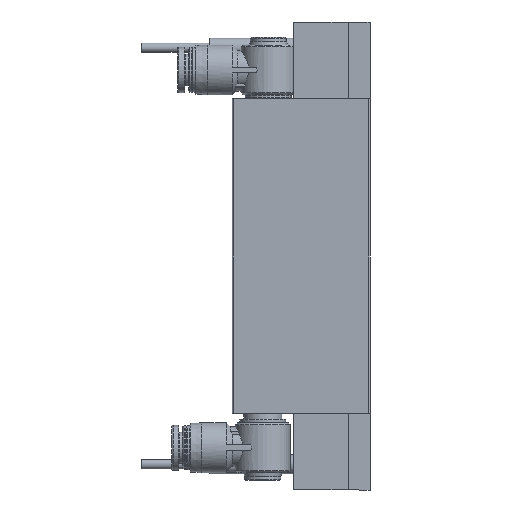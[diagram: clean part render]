
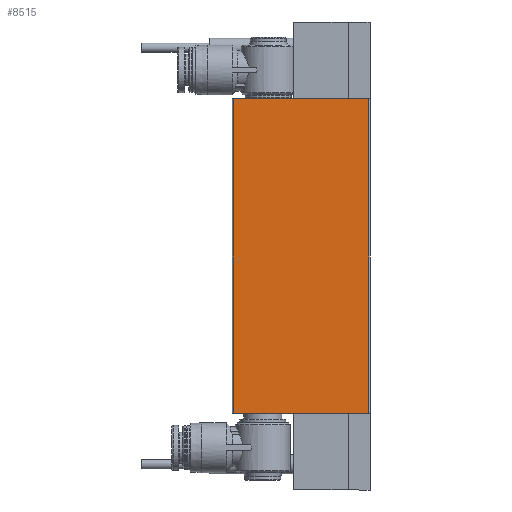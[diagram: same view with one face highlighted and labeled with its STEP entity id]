
A CAD part, left-side view. The second image highlights one B-rep face of the part: STEP entity #8515.
In plain terms, the highlighted planar face has unit normal (-1, 0, 0).
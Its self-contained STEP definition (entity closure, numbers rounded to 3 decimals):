
#778=PLANE('',#9761);
#1323=FACE_OUTER_BOUND('',#1870,.T.);
#1870=EDGE_LOOP('',(#7768,#7769,#7770,#7771));
#2970=LINE('',#15240,#3617);
#2971=LINE('',#15243,#3618);
#2972=LINE('',#15245,#3619);
#2973=LINE('',#15246,#3620);
#3617=VECTOR('',#12215,10.);
#3618=VECTOR('',#12218,10.);
#3619=VECTOR('',#12219,10.);
#3620=VECTOR('',#12220,10.);
#4440=VERTEX_POINT('',#15236);
#4441=VERTEX_POINT('',#15238);
#4442=VERTEX_POINT('',#15242);
#4443=VERTEX_POINT('',#15244);
#5568=EDGE_CURVE('',#4440,#4441,#2970,.T.);
#5569=EDGE_CURVE('',#4440,#4442,#2971,.T.);
#5570=EDGE_CURVE('',#4443,#4441,#2972,.T.);
#5571=EDGE_CURVE('',#4442,#4443,#2973,.T.);
#7768=ORIENTED_EDGE('',*,*,#5569,.F.);
#7769=ORIENTED_EDGE('',*,*,#5568,.T.);
#7770=ORIENTED_EDGE('',*,*,#5570,.F.);
#7771=ORIENTED_EDGE('',*,*,#5571,.F.);
#8515=ADVANCED_FACE('',(#1323),#778,.T.);
#9761=AXIS2_PLACEMENT_3D('',#15241,#12216,#12217);
#12215=DIRECTION('',(0.,0.,-1.));
#12216=DIRECTION('center_axis',(-1.,0.,0.));
#12217=DIRECTION('ref_axis',(0.,1.,0.));
#12218=DIRECTION('',(0.,-1.,0.));
#12219=DIRECTION('',(0.,1.,0.));
#12220=DIRECTION('',(0.,0.,-1.));
#15236=CARTESIAN_POINT('',(-17.5,-0.3,0.));
#15238=CARTESIAN_POINT('',(-17.5,-0.3,-82.));
#15240=CARTESIAN_POINT('',(-17.5,-0.3,0.));
#15241=CARTESIAN_POINT('Origin',(-17.5,-35.699,0.));
#15242=CARTESIAN_POINT('',(-17.5,-35.699,0.));
#15243=CARTESIAN_POINT('',(-17.5,-0.3,0.));
#15244=CARTESIAN_POINT('',(-17.5,-35.699,-82.));
#15245=CARTESIAN_POINT('',(-17.5,-0.3,-82.));
#15246=CARTESIAN_POINT('',(-17.5,-35.699,0.));
